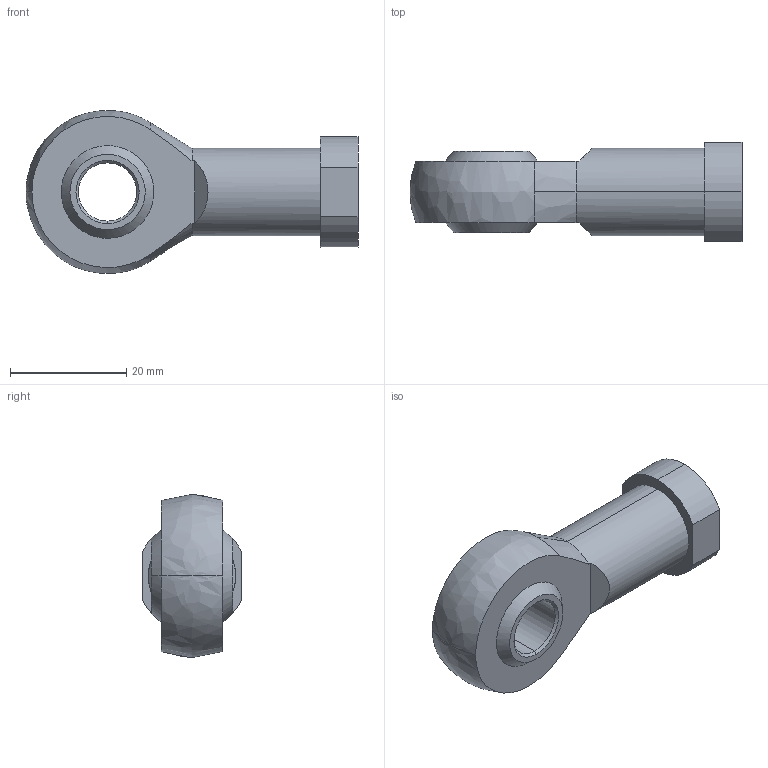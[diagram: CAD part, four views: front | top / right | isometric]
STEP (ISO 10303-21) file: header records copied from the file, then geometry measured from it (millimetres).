
FILE_DESCRIPTION (( 'STEP AP214' ), '1' );
FILE_NAME ('14.STK10.STEP', '2017-10-28T13:26:09', ( '' ), ( '' ), 'SwSTEP 2.0', 'SolidWorks 2016', '' );
FILE_SCHEMA (( 'AUTOMOTIVE_DESIGN' ));
Length unit declared in the file: millimetre
Products named in the file (1): 14.STK10
Bounding box: 57 x 17 x 28 mm (x, y, z)
Volume: 10230.1 mm3; surface area: 4680.6 mm2
Topology: 1 solids, 1 shells, 35 faces, 85 edges, 53 vertices
Faces by surface type: cone 11, plane 10, cylinder 9, bspline 5
Entity records: 1569 total; most frequent: CARTESIAN_POINT 755, ORIENTED_EDGE 162, DIRECTION 158, EDGE_CURVE 81, AXIS2_PLACEMENT_3D 64, VERTEX_POINT 53, EDGE_LOOP 42, ADVANCED_FACE 35
